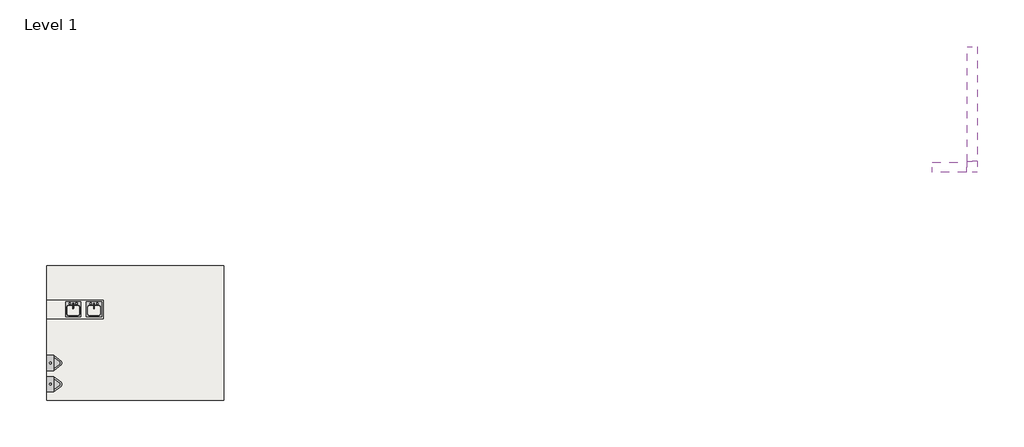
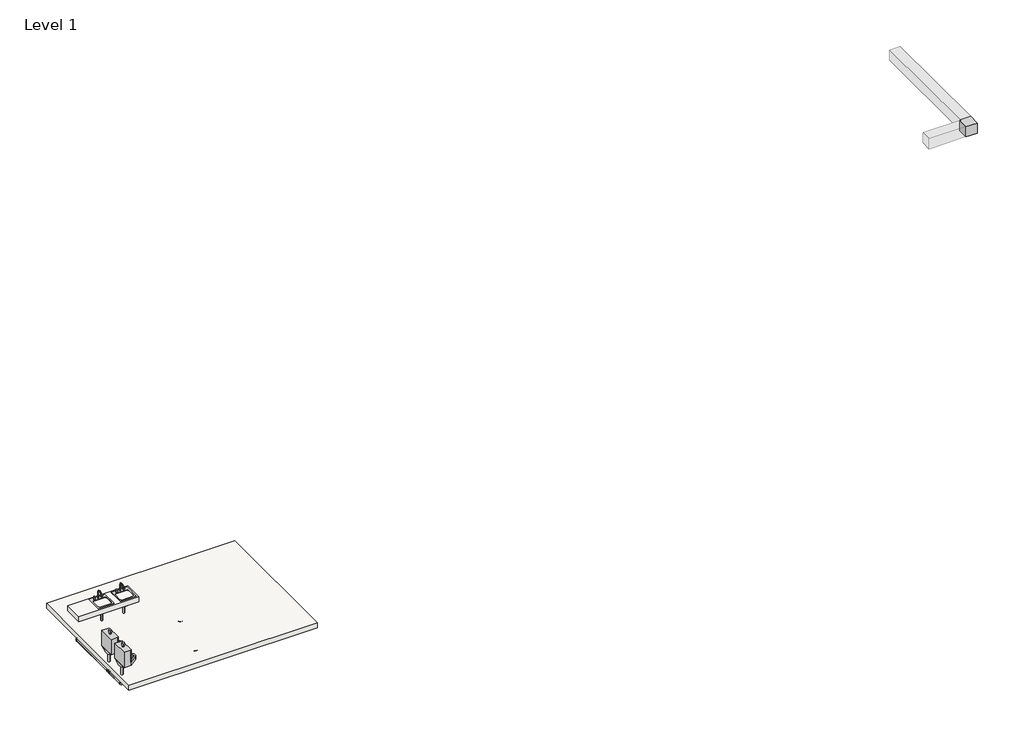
# One storey, incomplete: 12 pipe segments, 11 pipe fittings, 5 flow terminals, 2 duct segments, 2 slabs, 1 duct fitting.
"""IFC4 building model written with IfcOpenShell, lengths in millimetres."""

from ifc_helpers import new_model, si_unit, point, frame, frame_2d, origin, place, context, project, spatial, polyline, circle_curve, trimmed, segment, composite_curve, outline, extrude, transform, mapped, element, save
from components import rectangular_elbow_mitered_standard_4ff1c4e8, flow_terminal_accce45a, flow_terminal_ae45b8c9, flow_terminal_2caf3f76, bend_pvc_sch_40_dwv_standard_a4b99d37, bend_pvc_sch_40_dwv_standard_1eaeee76, bend_pvc_sch_40_dwv_standard_738aab8b, reducer_pvc_sch_40_dwv_standard_b23fa098, reducer_pvc_sch_40_dwv_standard_44865e00, tee_sanitary_pvc_sch_40_dwv_standard_097eae93

model = new_model("IFC4")

# Units and contexts
model_context = context("Model", 3, world=origin())
ifc_project = project(units=[si_unit("LENGTHUNIT", "METRE", prefix="MILLI")], contexts=[model_context])

# Site, building, storey
site = spatial("IfcSite", under=ifc_project)
building = spatial("IfcBuilding", under=site)
storey = spatial("IfcBuildingStorey", under=building, Name="Level 1", Elevation=0.0)

# Duct fitting
placement = place(None, origin())
rectangular_elbow_mitered_standard_shape = rectangular_elbow_mitered_standard_4ff1c4e8(model_context)
element("IfcDuctFitting", 1, ObjectType="Rectangular Elbow - Mitered : Standard", at=placement, inside=storey, context=model_context, shape_type="MappedRepresentation", body=[
    mapped(rectangular_elbow_mitered_standard_shape, transform((12105.3812915, 1084.8792911, 2743.2), x_axis=(1.0, 0.0, 0.0), y_axis=(0.0, 1.0, 0.0), z_axis=(0.0, 0.0, 1.0))),
])

# Duct segments
element("IfcDuctSegment", 2, ObjectType="Mitered Elbows / Tees", at=placement, inside=storey, context=model_context, shape_type="SweptSolid", body=[
    extrude(outline(polyline([(11952.9812915, 4742.4792911), (12257.7812915, 4742.4792911), (12257.7812915, 1262.6792911), (11952.9812915, 1262.6792911), (11952.9812915, 4742.4792911)])), frame((0.0, 0.0, 2590.8), z_axis=(0.0, 0.0, 1.0), x_axis=(1.0, 0.0, 0.0)), (0.0, 0.0, 1.0), 304.8),
])
element("IfcDuctSegment", 3, ObjectType="Mitered Elbows / Tees", at=placement, inside=storey, context=model_context, shape_type="SweptSolid", body=[
    extrude(outline(polyline([(11927.5812915, 1237.2792911), (11927.5812915, 932.4792911), (10886.1812915, 932.4792911), (10886.1812915, 1237.2792911), (11927.5812915, 1237.2792911)])), frame((0.0, 0.0, 2590.8), z_axis=(0.0, 0.0, 1.0), x_axis=(1.0, 0.0, 0.0)), (0.0, 0.0, 1.0), 304.8),
])

# Flow terminals
flow_terminal_shape = flow_terminal_accce45a(model_context)
element("IfcFlowTerminal", 4, ObjectType="Floor Drain - Round : 5\" Strainer - 2\" Drain", at=placement, inside=storey, context=model_context, shape_type="MappedRepresentation", body=[
    mapped(flow_terminal_shape, transform((-13473.9870906, -4201.0517477, 0.0), x_axis=(1.0, 0.0, 0.0), y_axis=(0.0, 1.0, 0.0), z_axis=(0.0, 0.0, 1.0))),
])
flow_terminal_2_shape = flow_terminal_ae45b8c9(model_context)
element("IfcFlowTerminal", 5, ObjectType="Sink - Island - Single : 18\"x18\" - Private", at=placement, inside=storey, context=model_context, shape_type="MappedRepresentation", body=[
    mapped(flow_terminal_2_shape, transform((-14524.5660694, -3223.0582256, 558.8), x_axis=(1.0, 0.0, 0.0), y_axis=(0.0, 1.0, 0.0), z_axis=(0.0, 0.0, 1.0))),
])
element("IfcFlowTerminal", 6, ObjectType="Sink - Island - Single : 18\"x18\" - Private", at=placement, inside=storey, context=model_context, shape_type="MappedRepresentation", body=[
    mapped(flow_terminal_2_shape, transform((-15154.9134567, -3223.0582256, 558.8), x_axis=(1.0, 0.0, 0.0), y_axis=(0.0, 1.0, 0.0), z_axis=(0.0, 0.0, 1.0))),
])
flow_terminal_3_shape = flow_terminal_2caf3f76(model_context)
element("IfcFlowTerminal", 7, ObjectType="Urinal - Wall Hung : 3/4\" Flush Valve", at=placement, inside=storey, context=model_context, shape_type="MappedRepresentation", body=[
    mapped(flow_terminal_3_shape, transform((-15951.155561, -5492.3088199, 457.2), x_axis=(0.0, 1.0, 0.0), y_axis=(0.0, 0.0, 1.0), z_axis=(1.0, 0.0, 0.0))),
])
element("IfcFlowTerminal", 8, ObjectType="Urinal - Wall Hung : 3/4\" Flush Valve", at=placement, inside=storey, context=model_context, shape_type="MappedRepresentation", body=[
    mapped(flow_terminal_3_shape, transform((-15951.155561, -4850.500571, 457.2), x_axis=(0.0, 1.0, 0.0), y_axis=(0.0, 0.0, 1.0), z_axis=(1.0, 0.0, 0.0))),
])

# Pipe fittings
bend_pvc_sch_40_dwv_standard_shape = bend_pvc_sch_40_dwv_standard_a4b99d37(model_context)
element("IfcPipeFitting", 9, ObjectType="Bend - PVC - Sch 40 - DWV : Standard", at=placement, inside=storey, context=model_context, shape_type="MappedRepresentation", body=[
    mapped(bend_pvc_sch_40_dwv_standard_shape, transform((-13781.8601361, -5494.3570041, -304.8), x_axis=(0.0, 0.0, -1.0), y_axis=(1.0, 0.0, 0.0), z_axis=(0.0, -1.0, 0.0))),
])
bend_pvc_sch_40_dwv_standard_2_shape = bend_pvc_sch_40_dwv_standard_1eaeee76(model_context)
element("IfcPipeFitting", 10, ObjectType="Bend - PVC - Sch 40 - DWV : Standard", at=placement, inside=storey, context=model_context, shape_type="MappedRepresentation", body=[
    mapped(bend_pvc_sch_40_dwv_standard_2_shape, transform((-13473.9870906, -4201.0517477, -304.8), x_axis=(0.0, 0.0, -1.0), y_axis=(0.0, -1.0, 0.0), z_axis=(-1.0, 0.0, 0.0))),
])
element("IfcPipeFitting", 11, ObjectType="Bend - PVC - Sch 40 - DWV : Standard", at=placement, inside=storey, context=model_context, shape_type="MappedRepresentation", body=[
    mapped(bend_pvc_sch_40_dwv_standard_2_shape, transform((-13473.9870906, -5494.3570041, -304.8), x_axis=(1.0, 0.0, 0.0), y_axis=(0.0, 1.0, 0.0), z_axis=(0.0, 0.0, 1.0))),
])
element("IfcPipeFitting", 12, ObjectType="Bend - PVC - Sch 40 - DWV : Standard", at=placement, inside=storey, context=model_context, shape_type="MappedRepresentation", body=[
    mapped(bend_pvc_sch_40_dwv_standard_2_shape, transform((-15882.496186, -3223.0582256, -304.8), x_axis=(-1.0, 0.0, 0.0), y_axis=(0.0, -1.0, 0.0), z_axis=(0.0, 0.0, 1.0))),
])
element("IfcPipeFitting", 13, ObjectType="Bend - PVC - Sch 40 - DWV : Standard", at=placement, inside=storey, context=model_context, shape_type="MappedRepresentation", body=[
    mapped(bend_pvc_sch_40_dwv_standard_2_shape, transform((-15882.496186, -5492.3088199, -304.8), x_axis=(0.0, 0.0, -1.0), y_axis=(0.0, 1.0, 0.0), z_axis=(1.0, 0.0, 0.0))),
])
bend_pvc_sch_40_dwv_standard_3_shape = bend_pvc_sch_40_dwv_standard_738aab8b(model_context)
element("IfcPipeFitting", 14, ObjectType="Bend - PVC - Sch 40 - DWV : Standard", at=placement, inside=storey, context=model_context, shape_type="MappedRepresentation", body=[
    mapped(bend_pvc_sch_40_dwv_standard_3_shape, transform((-14524.5660694, -3223.0582256, -304.8), x_axis=(0.0, 0.0, -1.0), y_axis=(-1.0, 0.0, 0.0), z_axis=(0.0, 1.0, 0.0))),
])
reducer_pvc_sch_40_dwv_standard_shape = reducer_pvc_sch_40_dwv_standard_b23fa098(model_context)
element("IfcPipeFitting", 15, ObjectType="Reducer - PVC - Sch 40 - DWV : Standard", at=placement, inside=storey, context=model_context, shape_type="MappedRepresentation", body=[
    mapped(reducer_pvc_sch_40_dwv_standard_shape, transform((-15100.9384567, -3223.0582256, -304.8), x_axis=(1.0, 0.0, 0.0), y_axis=(0.0, 1.0, 0.0), z_axis=(0.0, 0.0, 1.0))),
])
element("IfcPipeFitting", 16, ObjectType="Reducer - PVC - Sch 40 - DWV : Standard", at=placement, inside=storey, context=model_context, shape_type="MappedRepresentation", body=[
    mapped(reducer_pvc_sch_40_dwv_standard_shape, transform((-15154.9134567, -3223.0582256, -226.9998), x_axis=(0.0, 0.0, 1.0), y_axis=(-1.0, 0.0, 0.0), z_axis=(0.0, -1.0, 0.0))),
])
reducer_pvc_sch_40_dwv_standard_2_shape = reducer_pvc_sch_40_dwv_standard_44865e00(model_context)
element("IfcPipeFitting", 17, ObjectType="Reducer - PVC - Sch 40 - DWV : Standard", at=placement, inside=storey, context=model_context, shape_type="MappedRepresentation", body=[
    mapped(reducer_pvc_sch_40_dwv_standard_2_shape, transform((-13551.7872906, -5494.3570041, -304.8), x_axis=(-1.0, 0.0, 0.0), y_axis=(0.0, -1.0, 0.0), z_axis=(0.0, 0.0, 1.0))),
])
tee_sanitary_pvc_sch_40_dwv_standard_shape = tee_sanitary_pvc_sch_40_dwv_standard_097eae93(model_context)
element("IfcPipeFitting", 18, ObjectType="Tee Sanitary - PVC - Sch 40 - DWV : Standard", at=placement, inside=storey, context=model_context, shape_type="MappedRepresentation", body=[
    mapped(tee_sanitary_pvc_sch_40_dwv_standard_shape, transform((-15882.496186, -4850.500571, -304.8), x_axis=(0.0, -1.0, 0.0), y_axis=(0.0, 0.0, -1.0), z_axis=(1.0, 0.0, 0.0))),
])
element("IfcPipeFitting", 19, ObjectType="Tee Sanitary - PVC - Sch 40 - DWV : Standard", at=placement, inside=storey, context=model_context, shape_type="MappedRepresentation", body=[
    mapped(tee_sanitary_pvc_sch_40_dwv_standard_shape, transform((-15154.9134567, -3223.0582256, -304.8), x_axis=(1.0, 0.0, 0.0), y_axis=(0.0, 0.0, -1.0), z_axis=(0.0, 1.0, 0.0))),
])

# Pipe segments
element("IfcPipeSegment", 20, ObjectType="PVC - DWV", at=placement, inside=storey, context=model_context, shape_type="SweptSolid", body=[
    extrude(outline(composite_curve([segment(trimmed(circle_curve(frame_2d((-5494.3570041, -304.8)), 44.45), [point((-5538.8070041, -304.8))], [point((-5494.3570041, -260.35))], False, "CARTESIAN"), True, "CONTINUOUS"), segment(trimmed(circle_curve(frame_2d((-5494.3570041, -304.8)), 44.45), [point((-5494.3570041, -260.35))], [point((-5449.9070041, -304.8))], False, "CARTESIAN"), True, "CONTINUOUS"), segment(trimmed(circle_curve(frame_2d((-5494.3570041, -304.8)), 44.45), [point((-5449.9070041, -304.8))], [point((-5494.3570041, -349.25))], False, "CARTESIAN"), True, "CONTINUOUS"), segment(trimmed(circle_curve(frame_2d((-5494.3570041, -304.8)), 44.45), [point((-5494.3570041, -349.25))], [point((-5538.8070041, -304.8))], False, "CARTESIAN"), True, "CONTINUOUS")], self_intersect=False)), frame((-13665.9599361, 0.0, 0.0), z_axis=(1.0, 0.0, 0.0), x_axis=(0.0, 1.0, 0.0)), (0.0, 0.0, 1.0), 34.7976455),
])
element("IfcPipeSegment", 21, ObjectType="PVC - DWV", at=placement, inside=storey, context=model_context, shape_type="SweptSolid", body=[
    extrude(outline(composite_curve([segment(trimmed(circle_curve(frame_2d((-13781.8601361, -5494.3570041)), 44.45), [point((-13737.4101361, -5494.3570041))], [point((-13781.8601361, -5538.8070041))], False, "CARTESIAN"), True, "CONTINUOUS"), segment(trimmed(circle_curve(frame_2d((-13781.8601361, -5494.3570041)), 44.45), [point((-13781.8601361, -5538.8070041))], [point((-13826.3101361, -5494.3570041))], False, "CARTESIAN"), True, "CONTINUOUS"), segment(trimmed(circle_curve(frame_2d((-13781.8601361, -5494.3570041)), 44.45), [point((-13826.3101361, -5494.3570041))], [point((-13781.8601361, -5449.9070041))], False, "CARTESIAN"), True, "CONTINUOUS"), segment(trimmed(circle_curve(frame_2d((-13781.8601361, -5494.3570041)), 44.45), [point((-13781.8601361, -5449.9070041))], [point((-13737.4101361, -5494.3570041))], False, "CARTESIAN"), True, "CONTINUOUS")], self_intersect=False)), frame((0.0, 0.0, -188.8998), z_axis=(0.0, 0.0, 1.0), x_axis=(1.0, 0.0, 0.0)), (0.0, 0.0, 1.0), 188.8998),
])
element("IfcPipeSegment", 22, ObjectType="PVC - DWV", at=placement, inside=storey, context=model_context, shape_type="SweptSolid", body=[
    extrude(outline(composite_curve([segment(trimmed(circle_curve(frame_2d((-304.8, -13473.9870906)), 30.1625), [point((-304.8, -13504.1495906))], [point((-334.9625, -13473.9870906))], False, "CARTESIAN"), True, "CONTINUOUS"), segment(trimmed(circle_curve(frame_2d((-304.8, -13473.9870906)), 30.1625), [point((-334.9625, -13473.9870906))], [point((-304.8, -13443.8245906))], False, "CARTESIAN"), True, "CONTINUOUS"), segment(trimmed(circle_curve(frame_2d((-304.8, -13473.9870906)), 30.1625), [point((-304.8, -13443.8245906))], [point((-274.6375, -13473.9870906))], False, "CARTESIAN"), True, "CONTINUOUS"), segment(trimmed(circle_curve(frame_2d((-304.8, -13473.9870906)), 30.1625), [point((-274.6375, -13473.9870906))], [point((-304.8, -13504.1495906))], False, "CARTESIAN"), True, "CONTINUOUS")], self_intersect=False)), frame((0.0, -5416.5568041, 0.0), z_axis=(0.0, 1.0, 0.0), x_axis=(0.0, 0.0, 1.0)), (0.0, 0.0, 1.0), 1137.7048564),
])
element("IfcPipeSegment", 23, ObjectType="PVC - DWV", at=placement, inside=storey, context=model_context, shape_type="SweptSolid", body=[
    extrude(outline(composite_curve([segment(trimmed(circle_curve(frame_2d((-13473.9870906, -4201.0517477)), 30.1625), [point((-13443.8245906, -4201.0517477))], [point((-13473.9870906, -4231.2142477))], False, "CARTESIAN"), True, "CONTINUOUS"), segment(trimmed(circle_curve(frame_2d((-13473.9870906, -4201.0517477)), 30.1625), [point((-13473.9870906, -4231.2142477))], [point((-13504.1495906, -4201.0517477))], False, "CARTESIAN"), True, "CONTINUOUS"), segment(trimmed(circle_curve(frame_2d((-13473.9870906, -4201.0517477)), 30.1625), [point((-13504.1495906, -4201.0517477))], [point((-13473.9870906, -4170.8892477))], False, "CARTESIAN"), True, "CONTINUOUS"), segment(trimmed(circle_curve(frame_2d((-13473.9870906, -4201.0517477)), 30.1625), [point((-13473.9870906, -4170.8892477))], [point((-13443.8245906, -4201.0517477))], False, "CARTESIAN"), True, "CONTINUOUS")], self_intersect=False)), frame((0.0, 0.0, -226.9998), z_axis=(0.0, 0.0, 1.0), x_axis=(1.0, 0.0, 0.0)), (0.0, 0.0, 1.0), 52.3748),
])
element("IfcPipeSegment", 24, ObjectType="PVC - DWV", at=placement, inside=storey, context=model_context, shape_type="SweptSolid", body=[
    extrude(outline(composite_curve([segment(trimmed(circle_curve(frame_2d((-304.8, -15882.496186)), 30.1625), [point((-304.8, -15852.333686))], [point((-274.6375, -15882.496186))], False, "CARTESIAN"), True, "CONTINUOUS"), segment(trimmed(circle_curve(frame_2d((-304.8, -15882.496186)), 30.1625), [point((-274.6375, -15882.496186))], [point((-304.8, -15912.658686))], False, "CARTESIAN"), True, "CONTINUOUS"), segment(trimmed(circle_curve(frame_2d((-304.8, -15882.496186)), 30.1625), [point((-304.8, -15912.658686))], [point((-334.9625, -15882.496186))], False, "CARTESIAN"), True, "CONTINUOUS"), segment(trimmed(circle_curve(frame_2d((-304.8, -15882.496186)), 30.1625), [point((-334.9625, -15882.496186))], [point((-304.8, -15852.333686))], False, "CARTESIAN"), True, "CONTINUOUS")], self_intersect=False)), frame((0.0, -4772.700371, 0.0), z_axis=(0.0, 1.0, 0.0), x_axis=(0.0, 0.0, 1.0)), (0.0, 0.0, 1.0), 1471.8419454),
])
element("IfcPipeSegment", 25, ObjectType="PVC - DWV", at=placement, inside=storey, context=model_context, shape_type="SweptSolid", body=[
    extrude(outline(composite_curve([segment(trimmed(circle_curve(frame_2d((-3223.0582256, -304.8)), 30.1625), [point((-3253.2207256, -304.8))], [point((-3223.0582256, -274.6375))], False, "CARTESIAN"), True, "CONTINUOUS"), segment(trimmed(circle_curve(frame_2d((-3223.0582256, -304.8)), 30.1625), [point((-3223.0582256, -274.6375))], [point((-3192.8957256, -304.8))], False, "CARTESIAN"), True, "CONTINUOUS"), segment(trimmed(circle_curve(frame_2d((-3223.0582256, -304.8)), 30.1625), [point((-3192.8957256, -304.8))], [point((-3223.0582256, -334.9625))], False, "CARTESIAN"), True, "CONTINUOUS"), segment(trimmed(circle_curve(frame_2d((-3223.0582256, -304.8)), 30.1625), [point((-3223.0582256, -334.9625))], [point((-3253.2207256, -304.8))], False, "CARTESIAN"), True, "CONTINUOUS")], self_intersect=False)), frame((-15804.695986, 0.0, 0.0), z_axis=(1.0, 0.0, 0.0), x_axis=(0.0, 1.0, 0.0)), (0.0, 0.0, 1.0), 571.9823293),
])
element("IfcPipeSegment", 26, ObjectType="PVC - DWV", at=placement, inside=storey, context=model_context, shape_type="SweptSolid", body=[
    extrude(outline(composite_curve([segment(trimmed(circle_curve(frame_2d((-304.8, -15882.496186)), 30.1625), [point((-304.8, -15852.333686))], [point((-274.6375, -15882.496186))], False, "CARTESIAN"), True, "CONTINUOUS"), segment(trimmed(circle_curve(frame_2d((-304.8, -15882.496186)), 30.1625), [point((-274.6375, -15882.496186))], [point((-304.8, -15912.658686))], False, "CARTESIAN"), True, "CONTINUOUS"), segment(trimmed(circle_curve(frame_2d((-304.8, -15882.496186)), 30.1625), [point((-304.8, -15912.658686))], [point((-334.9625, -15882.496186))], False, "CARTESIAN"), True, "CONTINUOUS"), segment(trimmed(circle_curve(frame_2d((-304.8, -15882.496186)), 30.1625), [point((-334.9625, -15882.496186))], [point((-304.8, -15852.333686))], False, "CARTESIAN"), True, "CONTINUOUS")], self_intersect=False)), frame((0.0, -5414.5086199, 0.0), z_axis=(0.0, 1.0, 0.0), x_axis=(0.0, 0.0, 1.0)), (0.0, 0.0, 1.0), 510.0330489),
])
element("IfcPipeSegment", 27, ObjectType="PVC - DWV", at=placement, inside=storey, context=model_context, shape_type="SweptSolid", body=[
    extrude(outline(composite_curve([segment(trimmed(circle_curve(frame_2d((-15882.496186, -5492.3088199)), 30.1625), [point((-15852.333686, -5492.3088199))], [point((-15882.496186, -5522.4713199))], False, "CARTESIAN"), True, "CONTINUOUS"), segment(trimmed(circle_curve(frame_2d((-15882.496186, -5492.3088199)), 30.1625), [point((-15882.496186, -5522.4713199))], [point((-15912.658686, -5492.3088199))], False, "CARTESIAN"), True, "CONTINUOUS"), segment(trimmed(circle_curve(frame_2d((-15882.496186, -5492.3088199)), 30.1625), [point((-15912.658686, -5492.3088199))], [point((-15882.496186, -5462.1463199))], False, "CARTESIAN"), True, "CONTINUOUS"), segment(trimmed(circle_curve(frame_2d((-15882.496186, -5492.3088199)), 30.1625), [point((-15882.496186, -5462.1463199))], [point((-15852.333686, -5492.3088199))], False, "CARTESIAN"), True, "CONTINUOUS")], self_intersect=False)), frame((0.0, 0.0, -226.9998), z_axis=(0.0, 0.0, 1.0), x_axis=(1.0, 0.0, 0.0)), (0.0, 0.0, 1.0), 501.6373),
])
element("IfcPipeSegment", 28, ObjectType="PVC - DWV", at=placement, inside=storey, context=model_context, shape_type="SweptSolid", body=[
    extrude(outline(composite_curve([segment(trimmed(circle_curve(frame_2d((-15882.496186, -4850.500571)), 30.1625), [point((-15852.333686, -4850.500571))], [point((-15882.496186, -4880.663071))], False, "CARTESIAN"), True, "CONTINUOUS"), segment(trimmed(circle_curve(frame_2d((-15882.496186, -4850.500571)), 30.1625), [point((-15882.496186, -4880.663071))], [point((-15912.658686, -4850.500571))], False, "CARTESIAN"), True, "CONTINUOUS"), segment(trimmed(circle_curve(frame_2d((-15882.496186, -4850.500571)), 30.1625), [point((-15912.658686, -4850.500571))], [point((-15882.496186, -4820.338071))], False, "CARTESIAN"), True, "CONTINUOUS"), segment(trimmed(circle_curve(frame_2d((-15882.496186, -4850.500571)), 30.1625), [point((-15882.496186, -4820.338071))], [point((-15852.333686, -4850.500571))], False, "CARTESIAN"), True, "CONTINUOUS")], self_intersect=False)), frame((0.0, 0.0, -226.9998), z_axis=(0.0, 0.0, 1.0), x_axis=(1.0, 0.0, 0.0)), (0.0, 0.0, 1.0), 501.6373),
])
element("IfcPipeSegment", 29, ObjectType="PVC - DWV", at=placement, inside=storey, context=model_context, shape_type="SweptSolid", body=[
    extrude(outline(composite_curve([segment(trimmed(circle_curve(frame_2d((-15154.9134567, -3223.0582256)), 24.209375), [point((-15130.7040817, -3223.0582256))], [point((-15154.9134567, -3247.2676006))], False, "CARTESIAN"), True, "CONTINUOUS"), segment(trimmed(circle_curve(frame_2d((-15154.9134567, -3223.0582256)), 24.209375), [point((-15154.9134567, -3247.2676006))], [point((-15179.1228317, -3223.0582256))], False, "CARTESIAN"), True, "CONTINUOUS"), segment(trimmed(circle_curve(frame_2d((-15154.9134567, -3223.0582256)), 24.209375), [point((-15179.1228317, -3223.0582256))], [point((-15154.9134567, -3198.8488506))], False, "CARTESIAN"), True, "CONTINUOUS"), segment(trimmed(circle_curve(frame_2d((-15154.9134567, -3223.0582256)), 24.209375), [point((-15154.9134567, -3198.8488506))], [point((-15130.7040817, -3223.0582256))], False, "CARTESIAN"), True, "CONTINUOUS")], self_intersect=False)), frame((0.0, 0.0, -177.0126), z_axis=(0.0, 0.0, 1.0), x_axis=(1.0, 0.0, 0.0)), (0.0, 0.0, 1.0), 523.0876),
])
element("IfcPipeSegment", 30, ObjectType="PVC - DWV", at=placement, inside=storey, context=model_context, shape_type="SweptSolid", body=[
    extrude(outline(composite_curve([segment(trimmed(circle_curve(frame_2d((-3223.0582256, -304.8)), 24.209375), [point((-3198.8488506, -304.8))], [point((-3223.0582256, -329.009375))], False, "CARTESIAN"), True, "CONTINUOUS"), segment(trimmed(circle_curve(frame_2d((-3223.0582256, -304.8)), 24.209375), [point((-3223.0582256, -329.009375))], [point((-3247.2676006, -304.8))], False, "CARTESIAN"), True, "CONTINUOUS"), segment(trimmed(circle_curve(frame_2d((-3223.0582256, -304.8)), 24.209375), [point((-3247.2676006, -304.8))], [point((-3223.0582256, -280.590625))], False, "CARTESIAN"), True, "CONTINUOUS"), segment(trimmed(circle_curve(frame_2d((-3223.0582256, -304.8)), 24.209375), [point((-3223.0582256, -280.590625))], [point((-3198.8488506, -304.8))], False, "CARTESIAN"), True, "CONTINUOUS")], self_intersect=False)), frame((-15050.9512567, 0.0, 0.0), z_axis=(1.0, 0.0, 0.0), x_axis=(0.0, 1.0, 0.0)), (0.0, 0.0, 1.0), 464.4853873),
])
element("IfcPipeSegment", 31, ObjectType="PVC - DWV", at=placement, inside=storey, context=model_context, shape_type="SweptSolid", body=[
    extrude(outline(composite_curve([segment(trimmed(circle_curve(frame_2d((-14524.5660694, -3223.0582256)), 24.209375), [point((-14500.3566944, -3223.0582256))], [point((-14524.5660694, -3247.2676006))], False, "CARTESIAN"), True, "CONTINUOUS"), segment(trimmed(circle_curve(frame_2d((-14524.5660694, -3223.0582256)), 24.209375), [point((-14524.5660694, -3247.2676006))], [point((-14548.7754444, -3223.0582256))], False, "CARTESIAN"), True, "CONTINUOUS"), segment(trimmed(circle_curve(frame_2d((-14524.5660694, -3223.0582256)), 24.209375), [point((-14548.7754444, -3223.0582256))], [point((-14524.5660694, -3198.8488506))], False, "CARTESIAN"), True, "CONTINUOUS"), segment(trimmed(circle_curve(frame_2d((-14524.5660694, -3223.0582256)), 24.209375), [point((-14524.5660694, -3198.8488506))], [point((-14500.3566944, -3223.0582256))], False, "CARTESIAN"), True, "CONTINUOUS")], self_intersect=False)), frame((0.0, 0.0, -242.9002), z_axis=(0.0, 0.0, 1.0), x_axis=(1.0, 0.0, 0.0)), (0.0, 0.0, 1.0), 588.9752),
])

# Slabs
element("IfcSlab", 32, ObjectType="Generic -6\"", at=placement, inside=storey, context=model_context, shape_type="SweptSolid", body=[
    extrude(outline(polyline([(-10588.580561, -1902.1411222), (-10588.580561, -5980.4286222), (-15963.855561, -5980.4286222), (-15963.855561, -1902.1411222), (-10588.580561, -1902.1411222)])), frame((0.0, 0.0, -152.4), z_axis=(0.0, 0.0, 1.0), x_axis=(1.0, 0.0, 0.0)), (0.0, 0.0, 1.0), 152.4),
])
element("IfcSlab", 33, ObjectType="Generic -6\"", at=placement, inside=storey, context=model_context, shape_type="SweptSolid", body=[
    extrude(outline(polyline([(-14250.943061, -2943.5411222), (-14250.943061, -3502.3411222), (-15963.855561, -3502.3411222), (-15963.855561, -2943.5411222), (-14250.943061, -2943.5411222)])), frame((0.0, 0.0, 406.4), z_axis=(0.0, 0.0, 1.0), x_axis=(1.0, 0.0, 0.0)), (0.0, 0.0, 1.0), 152.4),
])

save(model, "model.ifc")
